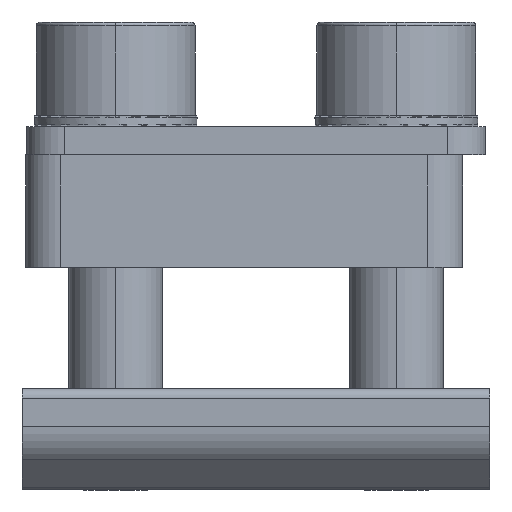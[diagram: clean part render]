
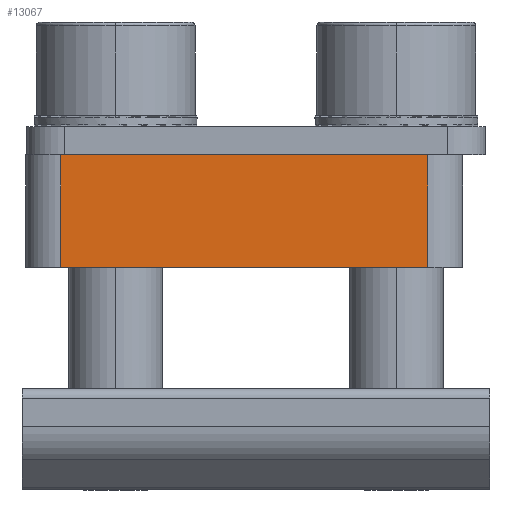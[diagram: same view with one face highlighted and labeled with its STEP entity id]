
A CAD part, front view. The second image highlights one B-rep face of the part: STEP entity #13067.
In plain terms, the highlighted planar face has unit normal (0, -1, 0).
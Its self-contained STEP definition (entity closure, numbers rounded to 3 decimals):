
#698 = EDGE_LOOP ( 'NONE', ( #9885, #8405, #20407, #6245 ) ) ;
#1202 = VECTOR ( 'NONE', #6094, 1000. ) ;
#2902 = EDGE_CURVE ( 'NONE', #13226, #17511, #23136, .T. ) ;
#3277 = VERTEX_POINT ( 'NONE', #19908 ) ;
#3335 = CARTESIAN_POINT ( 'NONE',  ( -89.313, -43.949, 35.526 ) ) ;
#4489 = CARTESIAN_POINT ( 'NONE',  ( -79.513, -43.949, 35.526 ) ) ;
#5266 = CARTESIAN_POINT ( 'NONE',  ( -69.713, -43.949, 38.526 ) ) ;
#6094 = DIRECTION ( 'NONE',  ( -1., 0., 0. ) ) ;
#6245 = ORIENTED_EDGE ( 'NONE', *, *, #2902, .T. ) ;
#8264 = LINE ( 'NONE', #4489, #12778 ) ;
#8405 = ORIENTED_EDGE ( 'NONE', *, *, #20258, .T. ) ;
#8411 = VECTOR ( 'NONE', #16707, 1000. ) ;
#9405 = EDGE_CURVE ( 'NONE', #17511, #3277, #21740, .T. ) ;
#9885 = ORIENTED_EDGE ( 'NONE', *, *, #9405, .T. ) ;
#10592 = DIRECTION ( 'NONE',  ( 0., -1., 0. ) ) ;
#12762 = FACE_OUTER_BOUND ( 'NONE', #698, .T. ) ;
#12778 = VECTOR ( 'NONE', #16024, 1000. ) ;
#13067 = ADVANCED_FACE ( 'NONE', ( #12762 ), #23576, .T. ) ;
#13226 = VERTEX_POINT ( 'NONE', #16874 ) ;
#14078 = LINE ( 'NONE', #16998, #24270 ) ;
#15678 = CARTESIAN_POINT ( 'NONE',  ( -79.513, -43.949, 41.526 ) ) ;
#16024 = DIRECTION ( 'NONE',  ( -1., 0., 0. ) ) ;
#16707 = DIRECTION ( 'NONE',  ( 0., 0., 1. ) ) ;
#16874 = CARTESIAN_POINT ( 'NONE',  ( -69.713, -43.949, 35.526 ) ) ;
#16998 = CARTESIAN_POINT ( 'NONE',  ( -89.313, -43.949, 38.526 ) ) ;
#17022 = VERTEX_POINT ( 'NONE', #3335 ) ;
#17392 = EDGE_CURVE ( 'NONE', #13226, #17022, #8264, .T. ) ;
#17511 = VERTEX_POINT ( 'NONE', #22104 ) ;
#18111 = AXIS2_PLACEMENT_3D ( 'NONE', #22083, #10592, #23985 ) ;
#19908 = CARTESIAN_POINT ( 'NONE',  ( -89.313, -43.949, 41.526 ) ) ;
#20258 = EDGE_CURVE ( 'NONE', #3277, #17022, #14078, .T. ) ;
#20407 = ORIENTED_EDGE ( 'NONE', *, *, #17392, .F. ) ;
#20774 = DIRECTION ( 'NONE',  ( 0., 0., -1. ) ) ;
#21740 = LINE ( 'NONE', #15678, #1202 ) ;
#22083 = CARTESIAN_POINT ( 'NONE',  ( -89.313, -43.949, 41.526 ) ) ;
#22104 = CARTESIAN_POINT ( 'NONE',  ( -69.713, -43.949, 41.526 ) ) ;
#23136 = LINE ( 'NONE', #5266, #8411 ) ;
#23576 = PLANE ( 'NONE',  #18111 ) ;
#23985 = DIRECTION ( 'NONE',  ( 0., 0., -1. ) ) ;
#24270 = VECTOR ( 'NONE', #20774, 1000. ) ;
